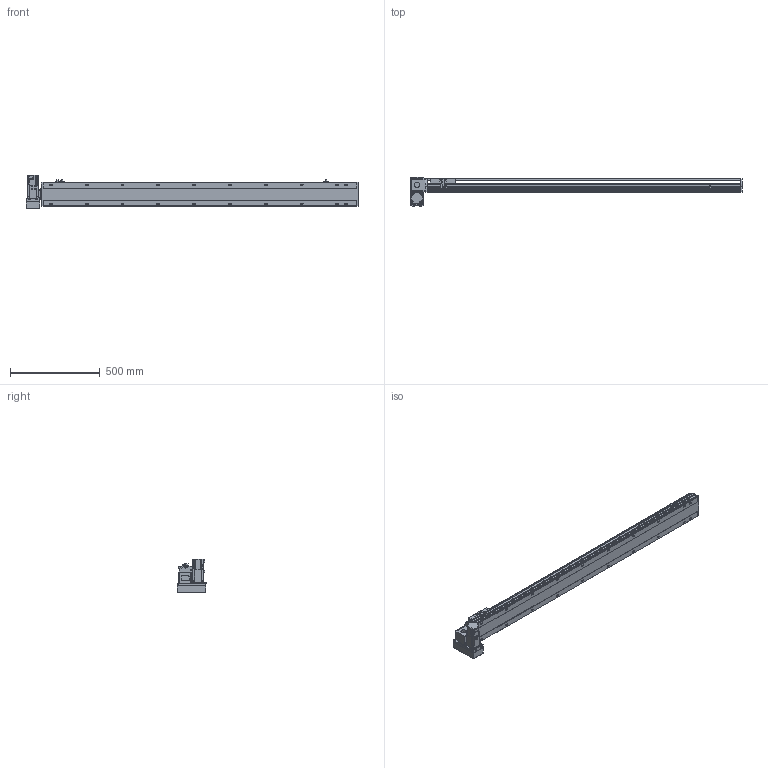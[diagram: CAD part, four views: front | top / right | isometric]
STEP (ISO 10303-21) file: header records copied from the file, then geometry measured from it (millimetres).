
FILE_DESCRIPTION(/* description */ ('STEP AP214'),/* implementation_level */ '2;1');
FILE_NAME(/* name */ 'PBS140-P40-S1500-LD-T40-C1-N(0)',/* time_stamp */ '2022-06-06T07:55:34+02:00',/* author */ ('License CC BY-ND 4.0'),/* organization */ ('CADENAS'),/* preprocessor_version */ 'ST-DEVELOPER v18.102',/* originating_system */ 'PARTsolutions',/* authorisation */ ' ');
FILE_SCHEMA (('AUTOMOTIVE_DESIGN {1 0 10303 214 3 1 1}'));
Length unit declared in the file: millimetre
Products named in the file (7): PBS140-P40-S1500-LD-T40-C1-N(0); PBS140_sensor; PBS140_plant; PBS140_sliser; T40-p1; PBS140T-LD_motors; PBS140-S1500()_body
Assembly tree (8 placements, depth 2):
  PBS140-P40-S1500-LD-T40-C1-N(0)
    PBS140_sensor  x3
    PBS140_plant
    PBS140_sliser
    T40-p1
    PBS140T-LD_motors
    PBS140-S1500()_body
Bounding box: 1854 x 162 x 189.7 mm (x, y, z)
Volume: 8607189.9 mm3; surface area: 1487126.2 mm2
Topology: 8 solids, 8 shells, 1107 faces, 2916 edges, 1905 vertices
Faces by surface type: plane 704, cylinder 347, cone 46, sphere 8, torus 2
Full cylindrical faces by diameter (mm): 3.242 x4, 4 x2, 4.134 x4, 4.4 x8, 4.5 x2, 4.8 x4, 4.917 x28, 5.5 x7, 6 x2, 7 x22, 7.5 x8, 8 x12, 8.5 x4, 10.5 x20, 14 x1, 30 x2, 50 x2
Entity records: 31561 total; most frequent: CARTESIAN_POINT 5889, DIRECTION 5337, ORIENTED_EDGE 5032, EDGE_CURVE 2516, AXIS2_PLACEMENT_3D 1867, VERTEX_POINT 1749, LINE 1603, VECTOR 1603
